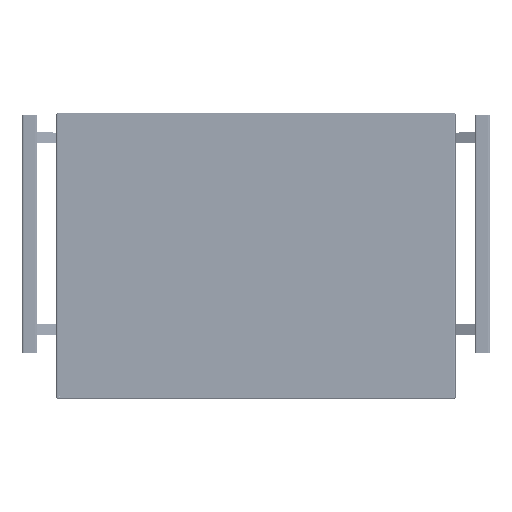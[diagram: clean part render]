
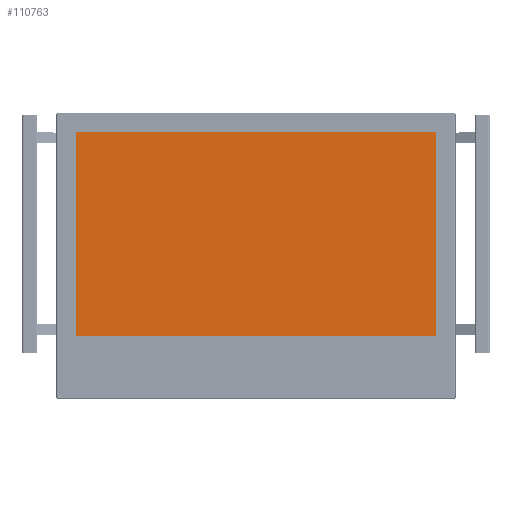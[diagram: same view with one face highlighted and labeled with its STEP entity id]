
A CAD part, top view. The second image highlights one B-rep face of the part: STEP entity #110763.
In plain terms, the highlighted planar face has unit normal (0, 0, 1) as drawn and (0, 1, 0) by its records, which use the part's own axes.
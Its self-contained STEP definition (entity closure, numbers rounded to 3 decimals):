
#631 = VECTOR ( 'NONE', #25333, 1000. ) ;
#8192 = DIRECTION ( 'NONE',  ( 1., 0., 0. ) ) ;
#9304 = AXIS2_PLACEMENT_3D ( 'NONE', #193169, #233684, #8192 ) ;
#21230 = VERTEX_POINT ( 'NONE', #213992 ) ;
#25333 = DIRECTION ( 'NONE',  ( 0., 0., -1. ) ) ;
#40007 = EDGE_CURVE ( 'NONE', #227091, #21230, #130164, .T. ) ;
#43788 = VERTEX_POINT ( 'NONE', #259473 ) ;
#56900 = LINE ( 'NONE', #221617, #193960 ) ;
#72981 = PLANE ( 'NONE',  #9304 ) ;
#100357 = VECTOR ( 'NONE', #196161, 1000. ) ;
#102418 = ORIENTED_EDGE ( 'NONE', *, *, #111165, .T. ) ;
#103853 = ORIENTED_EDGE ( 'NONE', *, *, #166358, .T. ) ;
#110763 = ADVANCED_FACE ( 'NONE', ( #172988 ), #72981, .T. ) ;
#111165 = EDGE_CURVE ( 'NONE', #43788, #227091, #230523, .T. ) ;
#122043 = CARTESIAN_POINT ( 'NONE',  ( -238.92, 2.7, 134.655 ) ) ;
#130164 = LINE ( 'NONE', #234011, #100357 ) ;
#157198 = CARTESIAN_POINT ( 'NONE',  ( 238.92, 2.7, 134.655 ) ) ;
#158841 = ORIENTED_EDGE ( 'NONE', *, *, #252522, .T. ) ;
#160355 = CARTESIAN_POINT ( 'NONE',  ( -238.92, 2.7, -134.655 ) ) ;
#166358 = EDGE_CURVE ( 'NONE', #21230, #238169, #172634, .T. ) ;
#172634 = LINE ( 'NONE', #160355, #265819 ) ;
#172988 = FACE_OUTER_BOUND ( 'NONE', #242205, .T. ) ;
#183674 = CARTESIAN_POINT ( 'NONE',  ( 238.92, 2.7, -134.655 ) ) ;
#189062 = DIRECTION ( 'NONE',  ( 1., 0., 0. ) ) ;
#193169 = CARTESIAN_POINT ( 'NONE',  ( 0., 2.7, 0. ) ) ;
#193960 = VECTOR ( 'NONE', #189062, 1000. ) ;
#196161 = DIRECTION ( 'NONE',  ( -1., 0., 0. ) ) ;
#213992 = CARTESIAN_POINT ( 'NONE',  ( -238.92, 2.7, -134.655 ) ) ;
#215742 = DIRECTION ( 'NONE',  ( 0., 0., 1. ) ) ;
#221617 = CARTESIAN_POINT ( 'NONE',  ( -238.92, 2.7, 134.655 ) ) ;
#227091 = VERTEX_POINT ( 'NONE', #183674 ) ;
#230523 = LINE ( 'NONE', #157198, #631 ) ;
#233684 = DIRECTION ( 'NONE',  ( 0., 1., 0. ) ) ;
#234011 = CARTESIAN_POINT ( 'NONE',  ( 238.92, 2.7, -134.655 ) ) ;
#238169 = VERTEX_POINT ( 'NONE', #122043 ) ;
#242205 = EDGE_LOOP ( 'NONE', ( #158841, #102418, #242593, #103853 ) ) ;
#242593 = ORIENTED_EDGE ( 'NONE', *, *, #40007, .T. ) ;
#252522 = EDGE_CURVE ( 'NONE', #238169, #43788, #56900, .T. ) ;
#259473 = CARTESIAN_POINT ( 'NONE',  ( 238.92, 2.7, 134.655 ) ) ;
#265819 = VECTOR ( 'NONE', #215742, 1000. ) ;
